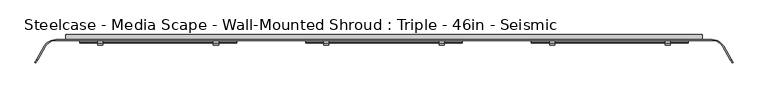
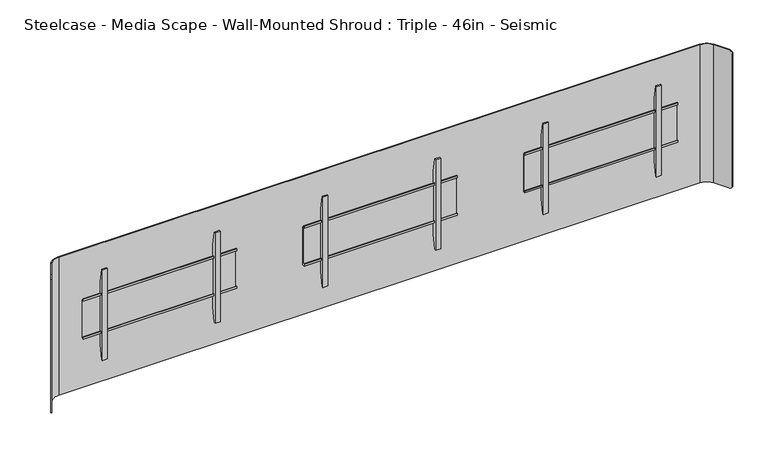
"""IFC4 building model written with IfcOpenShell, lengths in millimetres: furniture geometry, Steelcase - Media Scape - Wall-Mounted Shroud : Triple - 46in - Seismic."""

from ifc_helpers import new_model, si_unit, frame, origin, place, context, project, spatial, polyline, circle_curve, outline, extrude, source, transform, mapped, element, save
from ifc_brep_helpers import plane_surface, cylinder_surface, revolved_surface, advanced_brep


def steelcase_media_scape_wall_mounted_shroud_triple_46in_346eaddb(model_context):
    return source(origin(), model_context, "Body", "SolidModel", [
        extrude(outline(polyline([(-42.4942785, 1326.5504726), (-42.4942785, 1338.5645649), (-39.8272175, 1338.5645649), (-39.8272175, 1329.217461), (-29.9720009, 1329.217461), (-29.9720009, 1114.8922438), (-42.3164551, 1114.8922438), (-42.3164551, 1125.8142515), (-39.649394, 1125.8142515), (-39.649394, 1117.557052), (-32.6531824, 1117.557052), (-32.6531824, 1326.5504726), (-42.4942785, 1326.5504726)])), frame((765.175, 0.0, 0.0), z_axis=(1.0, 0.0, 0.0), x_axis=(0.0, 1.0, 0.0)), (0.0, 0.0, 1.0), 812.8),
        extrude(outline(polyline([(-32.6531824, 1397.4971148), (-32.6531824, 1045.6825607), (-46.5049349, 968.0546949), (-53.3399828, 968.0546949), (-53.3399828, 1476.0547192), (-46.5050076, 1476.0547192), (-32.6531824, 1397.4971148)])), frame((858.776426, 0.0, 0.0), z_axis=(1.0, 0.0, 0.0), x_axis=(0.0, 1.0, 0.0)), (0.0, 0.0, 1.0), 26.1592872),
        extrude(outline(polyline([(-32.6531824, 1397.4971148), (-32.6531824, 1045.6825607), (-46.5049349, 968.0546949), (-53.3399828, 968.0546949), (-53.3399828, 1476.0547192), (-46.5050076, 1476.0547192), (-32.6531824, 1397.4971148)])), frame((1458.2142868, 0.0, 0.0), z_axis=(1.0, 0.0, 0.0), x_axis=(0.0, 1.0, 0.0)), (0.0, 0.0, 1.0), 26.1592872),
        extrude(outline(polyline([(-42.4942785, 1326.5504726), (-42.4942785, 1338.5645649), (-39.8272175, 1338.5645649), (-39.8272175, 1329.217461), (-29.9720009, 1329.217461), (-29.9720009, 1114.8922438), (-42.3164551, 1114.8922438), (-42.3164551, 1125.8142515), (-39.649394, 1125.8142515), (-39.649394, 1117.557052), (-32.6531824, 1117.557052), (-32.6531824, 1326.5504726), (-42.4942785, 1326.5504726)])), frame((-1577.975, 0.0, 0.0), z_axis=(1.0, 0.0, 0.0), x_axis=(0.0, 1.0, 0.0)), (0.0, 0.0, 1.0), 812.8),
        extrude(outline(polyline([(-32.6531824, 1397.4971148), (-32.6531824, 1045.6825607), (-46.5049349, 968.0546949), (-53.3399828, 968.0546949), (-53.3399828, 1476.0547192), (-46.5050076, 1476.0547192), (-32.6531824, 1397.4971148)])), frame((-884.9357132, 0.0, 0.0), z_axis=(1.0, 0.0, 0.0), x_axis=(0.0, 1.0, 0.0)), (0.0, 0.0, 1.0), 26.1592872),
        extrude(outline(polyline([(-32.6531824, 1397.4971148), (-32.6531824, 1045.6825607), (-46.5049349, 968.0546949), (-53.3399828, 968.0546949), (-53.3399828, 1476.0547192), (-46.5050076, 1476.0547192), (-32.6531824, 1397.4971148)])), frame((-1484.373574, 0.0, 0.0), z_axis=(1.0, 0.0, 0.0), x_axis=(0.0, 1.0, 0.0)), (0.0, 0.0, 1.0), 26.1592872),
        extrude(outline(polyline([(-42.4942785, 1326.5504726), (-42.4942785, 1338.5645649), (-39.8272175, 1338.5645649), (-39.8272175, 1329.217461), (-29.9720009, 1329.217461), (-29.9720009, 1114.8922438), (-42.3164551, 1114.8922438), (-42.3164551, 1125.8142515), (-39.649394, 1125.8142515), (-39.649394, 1117.557052), (-32.6531824, 1117.557052), (-32.6531824, 1326.5504726), (-42.4942785, 1326.5504726)])), frame((-406.4, 0.0, 0.0), z_axis=(1.0, 0.0, 0.0), x_axis=(0.0, 1.0, 0.0)), (0.0, 0.0, 1.0), 812.8),
        extrude(outline(polyline([(-32.6531824, 1397.4971148), (-32.6531824, 1045.6825607), (-46.5049349, 968.0546949), (-53.3399828, 968.0546949), (-53.3399828, 1476.0547192), (-46.5050076, 1476.0547192), (-32.6531824, 1397.4971148)])), frame((286.6392868, 0.0, 0.0), z_axis=(1.0, 0.0, 0.0), x_axis=(0.0, 1.0, 0.0)), (0.0, 0.0, 1.0), 26.1592872),
        extrude(outline(polyline([(-32.6531824, 1397.4971148), (-32.6531824, 1045.6825607), (-46.5049349, 968.0546949), (-53.3399828, 968.0546949), (-53.3399828, 1476.0547192), (-46.5050076, 1476.0547192), (-32.6531824, 1397.4971148)])), frame((-312.798574, 0.0, 0.0), z_axis=(1.0, 0.0, 0.0), x_axis=(0.0, 1.0, 0.0)), (0.0, 0.0, 1.0), 26.1592872),
        extrude(outline(polyline([(1651.0, -25.4), (-1651.0, -25.4), (-1651.0, 0.0), (1651.0, 0.0), (1651.0, -25.4)])), frame((0.0, 0.0, 835.914), z_axis=(0.0, 0.0, 1.0), x_axis=(1.0, 0.0, 0.0)), (0.0, 0.0, 1.0), 76.2508167),
        advanced_brep(
        [(-1757.8086135, -61.722, 1610.614), (-1702.816002, -29.9720009, 1610.614), (1702.816, -29.9720009, 1610.614), (1757.8086135, -61.722, 1610.614), (1797.929586, -131.2135628, 1610.614), (1801.8890541, -128.9275628, 1610.614), (1761.7680817, -59.436, 1610.614), (1702.816002, -25.4, 1610.614), (-1702.816, -25.4, 1610.614), (-1761.7680817, -59.436, 1610.614), (-1801.8921659, -128.9329524, 1610.614), (-1797.9326977, -131.2189524, 1610.614), (-1761.7680817, -59.436, 835.914), (-1702.816002, -25.4, 835.914), (1702.816, -25.4, 835.914), (1761.7680817, -59.436, 835.914), (1801.9406629, -129.0169518, 835.914), (1797.9811948, -131.3029518, 835.914), (1757.8086135, -61.722, 835.914), (1702.816002, -29.9720009, 835.914), (-1702.816, -29.9720009, 835.914), (-1757.8086135, -61.722, 835.914), (-1797.9954014, -131.3275584, 835.914), (-1801.9548695, -129.0415584, 835.914), (-1811.4590632, -145.5033047, 849.5242766), (-1811.4590632, -145.5033047, 1596.6227735), (-1807.4995951, -147.7893047, 1596.6227735), (-1807.4995951, -147.7893047, 849.5242766), (1807.4770866, -147.7503189, 849.4756893), (1807.4770866, -147.7503189, 1596.7433849), (1811.4365547, -145.4643189, 1596.7433849), (1811.4365547, -145.4643189, 849.4756893)],
        [
            (0, 1, circle_curve(frame((-1702.816002, -93.4719991, 1610.614), z_axis=(0.0, 0.0, -1.0), x_axis=(0.0, 1.0, 0.0)), 63.4999981)),
            (1, 2),
            (2, 3, circle_curve(frame((1702.816002, -93.4719991, 1610.614), z_axis=(0.0, 0.0, -1.0), x_axis=(0.0, 1.0, 0.0)), 63.4999981)),
            (3, 4),
            (4, 5),
            (5, 6),
            (6, 7, circle_curve(frame((1702.8160004, -93.472, 1610.614), z_axis=(0.0, 0.0, 1.0), x_axis=(0.0, 1.0, 0.0)), 68.072)),
            (7, 8),
            (8, 9, circle_curve(frame((-1702.8160004, -93.472, 1610.614), z_axis=(0.0, 0.0, 1.0), x_axis=(0.0, 1.0, 0.0)), 68.072)),
            (9, 10),
            (10, 11),
            (11, 0),
            (12, 13, circle_curve(frame((-1702.8160004, -93.472, 835.914), z_axis=(0.0, 0.0, -1.0), x_axis=(0.0, 1.0, 0.0)), 68.072)),
            (13, 14),
            (14, 15, circle_curve(frame((1702.8160004, -93.472, 835.914), z_axis=(0.0, 0.0, -1.0), x_axis=(0.0, 1.0, 0.0)), 68.072)),
            (15, 16),
            (16, 17),
            (17, 18),
            (18, 19, circle_curve(frame((1702.816002, -93.4719991, 835.914), z_axis=(0.0, 0.0, 1.0), x_axis=(0.0, 1.0, 0.0)), 63.4999981)),
            (19, 20),
            (20, 21, circle_curve(frame((-1702.816002, -93.4719991, 835.914), z_axis=(0.0, 0.0, 1.0), x_axis=(0.0, 1.0, 0.0)), 63.4999981)),
            (21, 22),
            (22, 23),
            (23, 12),
            (0, 21),
            (20, 1),
            (8, 13),
            (12, 9),
            (23, 24, circle_curve(frame((-1801.9548695, -129.0415584, 855.9928872), z_axis=(-0.8660254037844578, 0.49999999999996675, 0.0), x_axis=(-0.49999999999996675, -0.8660254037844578, 0.0)), 20.0788872)),
            (24, 25),
            (25, 10, circle_curve(frame((-1801.8921659, -128.9329524, 1590.5351128), z_axis=(-0.8660254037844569, 0.49999999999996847, 0.0), x_axis=(-0.49999999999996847, -0.8660254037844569, 0.0)), 20.0788872)),
            (26, 25),
            (24, 27),
            (27, 26),
            (11, 26, circle_curve(frame((-1797.9326977, -131.2189524, 1590.5351128), z_axis=(0.8660254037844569, -0.49999999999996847, 0.0), x_axis=(-0.49999999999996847, -0.8660254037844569, 0.0)), 20.0788872)),
            (27, 22, circle_curve(frame((-1797.9954014, -131.3275584, 855.9928872), z_axis=(0.8660254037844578, -0.49999999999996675, 0.0), x_axis=(-0.49999999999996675, -0.8660254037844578, 0.0)), 20.0788872)),
            (7, 14),
            (19, 2),
            (3, 18),
            (17, 28, circle_curve(frame((1797.9811948, -131.3029518, 855.9928872), z_axis=(-0.8660254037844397, -0.49999999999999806, 0.0), x_axis=(0.49999999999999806, -0.8660254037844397, 0.0)), 20.0788872)),
            (28, 29),
            (29, 4, circle_curve(frame((1797.929586, -131.2135628, 1590.5351128), z_axis=(-0.8660254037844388, -0.4999999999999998, 0.0), x_axis=(0.4999999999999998, -0.8660254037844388, 0.0)), 20.0788872)),
            (30, 29),
            (28, 31),
            (31, 30),
            (15, 6),
            (5, 30, circle_curve(frame((1801.8890541, -128.9275628, 1590.5351128), z_axis=(0.8660254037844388, 0.4999999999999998, 0.0), x_axis=(0.4999999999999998, -0.8660254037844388, 0.0)), 20.0788872)),
            (31, 16, circle_curve(frame((1801.9406629, -129.0169518, 855.9928872), z_axis=(0.8660254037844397, 0.49999999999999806, 0.0), x_axis=(0.49999999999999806, -0.8660254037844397, 0.0)), 20.0788872)),
        ],
        [
            plane_surface(frame((-1702.816002, -29.9720009, 1610.614), z_axis=(0.0, 0.0, 1.0), x_axis=(1.0, 0.0, 0.0))),
            plane_surface(frame((-1702.816002, -29.9720009, 835.914), z_axis=(0.0, 0.0, -1.0), x_axis=(-1.0, 0.0, 0.0))),
            revolved_surface(polyline([(-1702.816002, -29.972001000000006, 835.914), (-1702.816002, -29.972001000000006, 1610.614)]), (-1702.816002, -93.4719991, 835.914), (0.0, 0.0, -1.0)),
            cylinder_surface(frame((-1702.8160004, -93.472, 835.914), z_axis=(0.0, 0.0, 1.0), x_axis=(0.0, 1.0, 0.0)), 68.072),
            plane_surface(frame((-1761.7680817, -59.436, 1610.614), z_axis=(-0.866025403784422, 0.5000000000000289, 0.0), x_axis=(0.0, 0.0, -1.0))),
            plane_surface(frame((-1811.4590632, -145.5033047, 1610.614), z_axis=(-0.5000000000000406, -0.8660254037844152, 0.0), x_axis=(0.0, 0.0, -1.0))),
            plane_surface(frame((-1807.4995951, -147.7893047, 1610.614), z_axis=(0.8660254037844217, -0.5000000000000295, 0.0), x_axis=(0.0, 0.0, -1.0))),
            plane_surface(frame((1702.816, -25.4, 1610.614), z_axis=(0.0, 1.0, 0.0), x_axis=(0.0, 0.0, -1.0))),
            plane_surface(frame((-1702.816, -29.9720009, 1610.614), z_axis=(0.0, -1.0, 0.0), x_axis=(0.0, 0.0, -1.0))),
            plane_surface(frame((1757.8086135, -61.722, 1610.614), z_axis=(-0.8660254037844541, -0.4999999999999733, 0.0), x_axis=(0.0, 0.0, -1.0))),
            plane_surface(frame((1807.4770866, -147.7503189, 1610.614), z_axis=(0.4999999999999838, -0.866025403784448, 0.0), x_axis=(0.0, 0.0, -1.0))),
            plane_surface(frame((1811.4365547, -145.4643189, 1610.614), z_axis=(0.8660254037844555, 0.49999999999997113, 0.0), x_axis=(0.0, 0.0, -1.0))),
            cylinder_surface(frame((1702.8160004, -93.472, 835.914), z_axis=(0.0, 0.0, 1.0), x_axis=(0.0, 1.0, 0.0)), 68.072),
            revolved_surface(polyline([(1702.816002, -29.972001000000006, 835.914), (1702.816002, -29.972001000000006, 1610.614)]), (1702.816002, -93.4719991, 835.914), (0.0, 0.0, -1.0)),
            cylinder_surface(frame((-1797.9326977, -131.2189524, 1590.5351128), z_axis=(0.8660254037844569, -0.49999999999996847, 0.0), x_axis=(-0.49999999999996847, -0.8660254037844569, 0.0)), 20.0788872),
            cylinder_surface(frame((-1797.9954014, -131.3275584, 855.9928872), z_axis=(0.8660254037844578, -0.49999999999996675, 0.0), x_axis=(-0.49999999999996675, -0.8660254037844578, 0.0)), 20.0788872),
            cylinder_surface(frame((1813.0364297, -122.4916225, 1590.5351128), z_axis=(0.8660254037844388, 0.4999999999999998, 0.0), x_axis=(0.4999999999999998, -0.8660254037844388, 0.0)), 20.0788872),
            cylinder_surface(frame((1810.2289695, -124.2316958, 855.9928872), z_axis=(0.8660254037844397, 0.49999999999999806, 0.0), x_axis=(0.49999999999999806, -0.8660254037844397, 0.0)), 20.0788872),
        ],
        [
            (0, [[1, 2, 3, 4, 5, 6, 7, 8, 9, 10, 11, 12]]),
            (1, [[13, 14, 15, 16, 17, 18, 19, 20, 21, 22, 23, 24]]),
            (2, [[-1, 25, -21, 26]]),
            (3, [[-9, 27, -13, 28]]),
            (4, [[-28, -24, 29, 30, 31, -10]]),
            (5, [[32, -30, 33, 34]]),
            (6, [[-25, -12, 35, -34, 36, -22]]),
            (7, [[-8, 37, -14, -27]]),
            (8, [[-2, -26, -20, 38]]),
            (9, [[39, -18, 40, 41, 42, -4]]),
            (10, [[43, -41, 44, 45]]),
            (11, [[46, -6, 47, -45, 48, -16]]),
            (12, [[-7, -46, -15, -37]]),
            (13, [[-3, -38, -19, -39]]),
            (14, [[-11, -31, -32, -35]]),
            (15, [[-23, -36, -33, -29]]),
            (16, [[-5, -42, -43, -47]]),
            (17, [[-17, -48, -44, -40]]),
        ],
    ),
        extrude(outline(polyline([(912.1648167, 1587.4999879), (912.1648167, 1651.0), (1534.414, 1651.0), (1534.414, -1651.0), (912.1648167, -1651.0), (912.1648167, -1588.4933465), (1470.9139516, -1588.4933465), (1470.9139516, 1587.4999879), (912.1648167, 1587.4999879)])), frame((0.0, -25.4, 0.0), z_axis=(0.0, 1.0, 0.0), x_axis=(0.0, 0.0, 1.0)), (0.0, 0.0, 1.0), 25.4),
    ])


if __name__ == "__main__":
    model = new_model("IFC4")
    model_context = context("Model", 3, world=origin())
    ifc_project = project(units=[si_unit("LENGTHUNIT", "METRE", prefix="MILLI")], contexts=[model_context])
    site = spatial("IfcSite", under=ifc_project)
    building = spatial("IfcBuilding", under=site)
    placement = place(None, origin())
    steelcase_media_scape_wall_mounted_shroud_triple_46in_shape = steelcase_media_scape_wall_mounted_shroud_triple_46in_346eaddb(model_context)
    element("IfcFurniture", 1, ObjectType="Steelcase - Media Scape - Wall-Mounted Shroud : Triple - 46in - Seismic", at=placement, inside=building, context=model_context, shape_type="MappedRepresentation", body=[
        mapped(steelcase_media_scape_wall_mounted_shroud_triple_46in_shape, transform((0.0, 0.0, 0.0), x_axis=(1.0, 0.0, 0.0), y_axis=(0.0, 1.0, 0.0), z_axis=(0.0, 0.0, 1.0))),
    ])
    save(model, "model.ifc")
